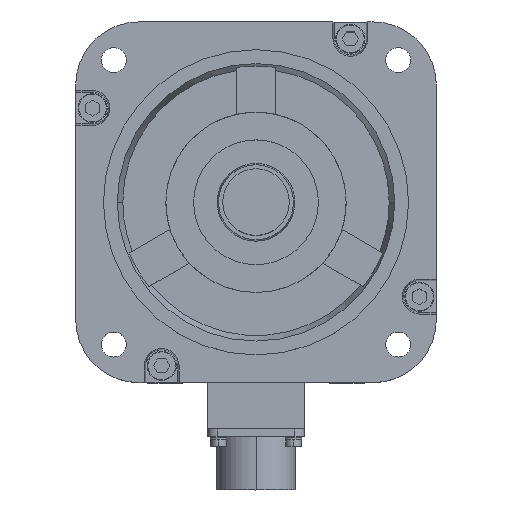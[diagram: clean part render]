
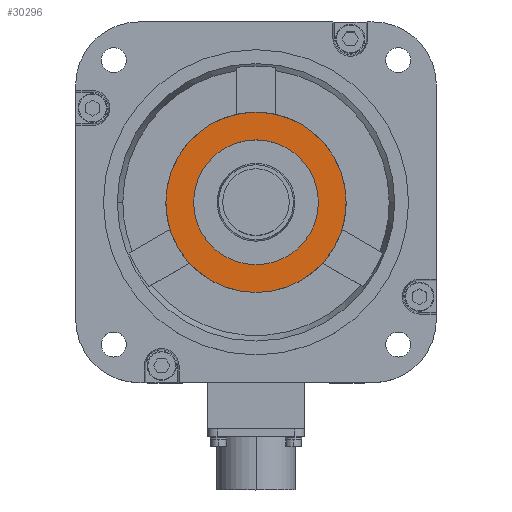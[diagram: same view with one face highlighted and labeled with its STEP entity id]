
A CAD part, top view. The second image highlights one B-rep face of the part: STEP entity #30296.
In plain terms, the highlighted planar face has unit normal (0, 0, 1).
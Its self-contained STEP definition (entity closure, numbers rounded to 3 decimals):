
#8051=CARTESIAN_POINT('',(0.,0.,6.));
#8052=DIRECTION('',(0.,0.,1.));
#8053=DIRECTION('',(1.,0.,0.));
#8054=AXIS2_PLACEMENT_3D('',#8051,#8052,#8053);
#8056=CARTESIAN_POINT('',(0.,0.,6.));
#8057=DIRECTION('',(0.,0.,1.));
#8058=DIRECTION('',(-1.,0.,0.));
#8059=AXIS2_PLACEMENT_3D('',#8056,#8057,#8058);
#8061=CARTESIAN_POINT('',(0.,0.,6.));
#8062=DIRECTION('',(0.,0.,-1.));
#8063=DIRECTION('',(-1.,0.,0.));
#8064=AXIS2_PLACEMENT_3D('',#8061,#8062,#8063);
#8066=CARTESIAN_POINT('',(0.,0.,6.));
#8067=DIRECTION('',(0.,0.,-1.));
#8068=DIRECTION('',(1.,0.,0.));
#8069=AXIS2_PLACEMENT_3D('',#8066,#8067,#8068);
#9834=CARTESIAN_POINT('',(-22.5,0.,6.));
#9836=VERTEX_POINT('',#9834);
#9839=CARTESIAN_POINT('',(22.5,0.,6.));
#9840=VERTEX_POINT('',#9839);
#12002=CARTESIAN_POINT('',(-32.5,0.,6.));
#12003=VERTEX_POINT('',#12002);
#12004=CARTESIAN_POINT('',(32.5,0.,6.));
#12005=VERTEX_POINT('',#12004);
#30281=CARTESIAN_POINT('',(0.,0.,6.));
#30282=DIRECTION('',(0.,0.,1.));
#30283=DIRECTION('',(1.,0.,0.));
#30284=AXIS2_PLACEMENT_3D('',#30281,#30282,#30283);
#30285=PLANE('',#30284);
#30286=ORIENTED_EDGE('',*,*,#30263,.F.);
#30287=ORIENTED_EDGE('',*,*,#30217,.F.);
#30288=EDGE_LOOP('',(#30286,#30287));
#30289=FACE_OUTER_BOUND('',#30288,.F.);
#30291=ORIENTED_EDGE('',*,*,#30290,.F.);
#30293=ORIENTED_EDGE('',*,*,#30292,.F.);
#30294=EDGE_LOOP('',(#30291,#30293));
#30295=FACE_BOUND('',#30294,.F.);
#30296=ADVANCED_FACE('',(#30289,#30295),#30285,.T.);
#8055=CIRCLE('',#8054,32.5);
#8060=CIRCLE('',#8059,32.5);
#8065=CIRCLE('',#8064,22.5);
#8070=CIRCLE('',#8069,22.5);
#30217=EDGE_CURVE('',#12003,#12005,#8060,.T.);
#30263=EDGE_CURVE('',#12005,#12003,#8055,.T.);
#30290=EDGE_CURVE('',#9836,#9840,#8065,.T.);
#30292=EDGE_CURVE('',#9840,#9836,#8070,.T.);
